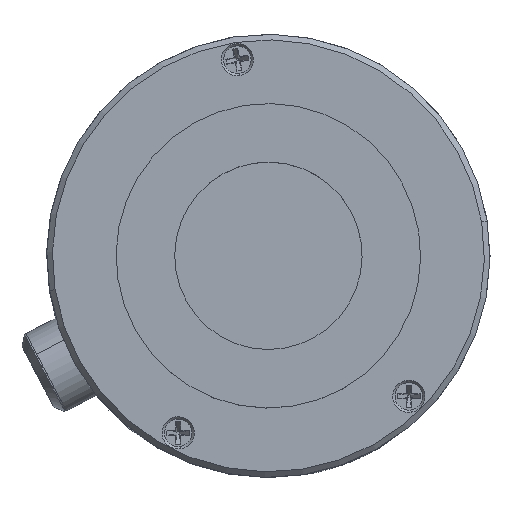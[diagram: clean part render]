
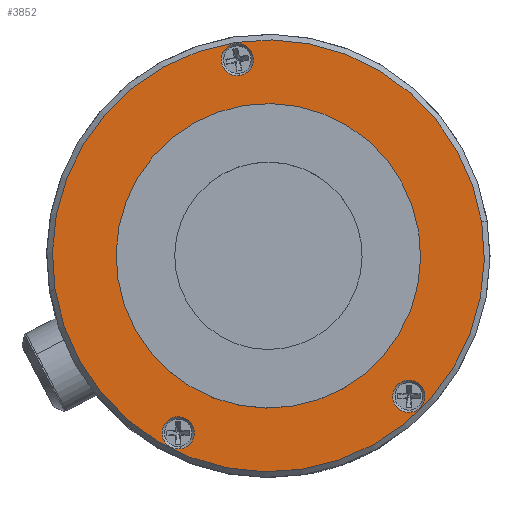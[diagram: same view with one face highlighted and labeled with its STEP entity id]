
A CAD part, top view. The second image highlights one B-rep face of the part: STEP entity #3852.
In plain terms, the highlighted planar face has unit normal (0, 0, 1) as drawn and (0, 0, -1) by its records, which use the part's own axes.
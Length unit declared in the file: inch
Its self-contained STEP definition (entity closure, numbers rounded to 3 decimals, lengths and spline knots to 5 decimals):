
#432 = EDGE_LOOP ( 'NONE', ( #46354, #32463 ) ) ;
#806 = CARTESIAN_POINT ( 'NONE',  ( -0.62305, -0.77156, 0.155 ) ) ;
#1337 = DIRECTION ( 'NONE',  ( 0., 0., -1. ) ) ;
#1945 = VERTEX_POINT ( 'NONE', #7926 ) ;
#2167 = CARTESIAN_POINT ( 'NONE',  ( -0.7845, 0., 0.155 ) ) ;
#3840 = ORIENTED_EDGE ( 'NONE', *, *, #15056, .F. ) ;
#3852 = ADVANCED_FACE ( 'Face2', ( #16910, #37222, #62943, #52576, #17238 ), #59587, .T. ) ;
#5066 = CARTESIAN_POINT ( 'NONE',  ( 0., 0.974, 0.155 ) ) ;
#7926 = CARTESIAN_POINT ( 'NONE',  ( 1.1525, 0., 0.155 ) ) ;
#7987 = CARTESIAN_POINT ( 'NONE',  ( 0., 1.146, 0.155 ) ) ;
#8437 = CARTESIAN_POINT ( 'NONE',  ( 0., 0., 0.155 ) ) ;
#8590 = VERTEX_POINT ( 'NONE', #2167 ) ;
#9162 = CIRCLE ( 'NONE', #60227, 0.086 ) ;
#9300 = VERTEX_POINT ( 'NONE', #15043 ) ;
#9803 = DIRECTION ( 'NONE',  ( -1., 0., 0. ) ) ;
#10134 = EDGE_CURVE ( 'NONE', #22692, #61598, #16368, .T. ) ;
#11386 = CARTESIAN_POINT ( 'NONE',  ( 0., 0., 0.155 ) ) ;
#11672 = EDGE_LOOP ( 'NONE', ( #24614, #3840 ) ) ;
#12423 = DIRECTION ( 'NONE',  ( 0., 1., 0. ) ) ;
#13481 = DIRECTION ( 'NONE',  ( 0., 1., 0. ) ) ;
#14053 = EDGE_CURVE ( 'NONE', #56169, #22062, #40200, .T. ) ;
#14155 = CARTESIAN_POINT ( 'NONE',  ( -0.8125, 0., 0.155 ) ) ;
#14457 = CIRCLE ( 'NONE', #26233, 1.1525 ) ;
#15043 = CARTESIAN_POINT ( 'NONE',  ( -1.1525, 0., 0.155 ) ) ;
#15056 = EDGE_CURVE ( 'NONE', #65654, #8590, #59596, .T. ) ;
#16368 = CIRCLE ( 'NONE', #49345, 0.086 ) ;
#16910 = FACE_OUTER_BOUND ( 'NONE', #432, .T. ) ;
#17156 = DIRECTION ( 'NONE',  ( 0., 0., -1. ) ) ;
#17238 = FACE_BOUND ( 'NONE', #11672, .T. ) ;
#18690 = DIRECTION ( 'NONE',  ( 0., 0., -1. ) ) ;
#18979 = ORIENTED_EDGE ( 'NONE', *, *, #65977, .F. ) ;
#19152 = AXIS2_PLACEMENT_3D ( 'NONE', #35242, #19945, #46593 ) ;
#19542 = DIRECTION ( 'NONE',  ( 0., 0., -1. ) ) ;
#19945 = DIRECTION ( 'NONE',  ( 0., 0., -1. ) ) ;
#20091 = CIRCLE ( 'NONE', #49885, 0.086 ) ;
#21116 = DIRECTION ( 'NONE',  ( -1., 0., 0. ) ) ;
#22062 = VERTEX_POINT ( 'NONE', #32411 ) ;
#22092 = DIRECTION ( 'NONE',  ( 0., 1., 0. ) ) ;
#22692 = VERTEX_POINT ( 'NONE', #65736 ) ;
#23078 = CARTESIAN_POINT ( 'NONE',  ( -0.62305, -0.85756, 0.155 ) ) ;
#23605 = CIRCLE ( 'NONE', #47074, 1.1525 ) ;
#24614 = ORIENTED_EDGE ( 'NONE', *, *, #63858, .F. ) ;
#24904 = CARTESIAN_POINT ( 'NONE',  ( 0.62305, -0.94356, 0.155 ) ) ;
#25598 = ORIENTED_EDGE ( 'NONE', *, *, #39510, .F. ) ;
#25613 = EDGE_CURVE ( 'Edge15', #9300, #1945, #23605, .T. ) ;
#26233 = AXIS2_PLACEMENT_3D ( 'NONE', #8437, #32494, #63588 ) ;
#27321 = CARTESIAN_POINT ( 'NONE',  ( -0.62305, -0.85756, 0.155 ) ) ;
#28994 = CIRCLE ( 'NONE', #51387, 0.086 ) ;
#29658 = EDGE_LOOP ( 'NONE', ( #18979, #33134 ) ) ;
#30800 = AXIS2_PLACEMENT_3D ( 'NONE', #44532, #50549, #9803 ) ;
#31246 = ORIENTED_EDGE ( 'NONE', *, *, #10134, .F. ) ;
#31338 = DIRECTION ( 'NONE',  ( 0., 0., -1. ) ) ;
#31661 = DIRECTION ( 'NONE',  ( 0., 1., 0. ) ) ;
#32411 = CARTESIAN_POINT ( 'NONE',  ( 0.62305, -0.77156, 0.155 ) ) ;
#32463 = ORIENTED_EDGE ( 'NONE', *, *, #25613, .T. ) ;
#32494 = DIRECTION ( 'NONE',  ( 0., 0., -1. ) ) ;
#32732 = AXIS2_PLACEMENT_3D ( 'NONE', #47820, #17156, #12423 ) ;
#33134 = ORIENTED_EDGE ( 'NONE', *, *, #58730, .F. ) ;
#33844 = DIRECTION ( 'NONE',  ( -1., 0., 0. ) ) ;
#35242 = CARTESIAN_POINT ( 'NONE',  ( 0., 1.06, 0.155 ) ) ;
#35959 = EDGE_LOOP ( 'NONE', ( #25598, #31246 ) ) ;
#36130 = CIRCLE ( 'NONE', #19152, 0.086 ) ;
#37222 = FACE_BOUND ( 'NONE', #35959, .T. ) ;
#38820 = CARTESIAN_POINT ( 'NONE',  ( 0., 1.06, 0.155 ) ) ;
#39510 = EDGE_CURVE ( 'NONE', #61598, #22692, #9162, .T. ) ;
#40200 = CIRCLE ( 'NONE', #32732, 0.086 ) ;
#42999 = VERTEX_POINT ( 'NONE', #7987 ) ;
#44532 = CARTESIAN_POINT ( 'NONE',  ( 0., 0., 0.155 ) ) ;
#45163 = ORIENTED_EDGE ( 'NONE', *, *, #14053, .F. ) ;
#46354 = ORIENTED_EDGE ( 'NONE', *, *, #62843, .T. ) ;
#46593 = DIRECTION ( 'NONE',  ( 0., 1., 0. ) ) ;
#47074 = AXIS2_PLACEMENT_3D ( 'NONE', #11386, #1337, #21116 ) ;
#47820 = CARTESIAN_POINT ( 'NONE',  ( 0.62305, -0.85756, 0.155 ) ) ;
#49078 = DIRECTION ( 'NONE',  ( 0., 1., 0. ) ) ;
#49345 = AXIS2_PLACEMENT_3D ( 'NONE', #27321, #31338, #31661 ) ;
#49885 = AXIS2_PLACEMENT_3D ( 'NONE', #38820, #59248, #13481 ) ;
#50549 = DIRECTION ( 'NONE',  ( 0., 0., -1. ) ) ;
#50749 = VERTEX_POINT ( 'NONE', #5066 ) ;
#51387 = AXIS2_PLACEMENT_3D ( 'NONE', #62790, #54063, #22092 ) ;
#52576 = FACE_BOUND ( 'NONE', #29658, .T. ) ;
#52642 = EDGE_CURVE ( 'NONE', #22062, #56169, #28994, .T. ) ;
#53379 = CARTESIAN_POINT ( 'NONE',  ( 0., 0., 0.155 ) ) ;
#54063 = DIRECTION ( 'NONE',  ( 0., 0., -1. ) ) ;
#54368 = CARTESIAN_POINT ( 'NONE',  ( 0.7845, 0., 0.155 ) ) ;
#56169 = VERTEX_POINT ( 'NONE', #24904 ) ;
#57871 = EDGE_LOOP ( 'NONE', ( #64750, #45163 ) ) ;
#58478 = DIRECTION ( 'NONE',  ( 0., 0., -1. ) ) ;
#58730 = EDGE_CURVE ( 'NONE', #50749, #42999, #20091, .T. ) ;
#59248 = DIRECTION ( 'NONE',  ( 0., 0., -1. ) ) ;
#59587 = PLANE ( 'NONE',  #62064 ) ;
#59596 = CIRCLE ( 'NONE', #30800, 0.7845 ) ;
#60227 = AXIS2_PLACEMENT_3D ( 'NONE', #23078, #58478, #49078 ) ;
#61572 = CIRCLE ( 'NONE', #65863, 0.7845 ) ;
#61598 = VERTEX_POINT ( 'NONE', #806 ) ;
#62064 = AXIS2_PLACEMENT_3D ( 'NONE', #14155, #19542, #33844 ) ;
#62790 = CARTESIAN_POINT ( 'NONE',  ( 0.62305, -0.85756, 0.155 ) ) ;
#62843 = EDGE_CURVE ( 'Edge15', #1945, #9300, #14457, .T. ) ;
#62943 = FACE_BOUND ( 'NONE', #57871, .T. ) ;
#63588 = DIRECTION ( 'NONE',  ( -1., 0., 0. ) ) ;
#63775 = DIRECTION ( 'NONE',  ( -1., 0., 0. ) ) ;
#63858 = EDGE_CURVE ( 'NONE', #8590, #65654, #61572, .T. ) ;
#64750 = ORIENTED_EDGE ( 'NONE', *, *, #52642, .F. ) ;
#65654 = VERTEX_POINT ( 'NONE', #54368 ) ;
#65736 = CARTESIAN_POINT ( 'NONE',  ( -0.62305, -0.94356, 0.155 ) ) ;
#65863 = AXIS2_PLACEMENT_3D ( 'NONE', #53379, #18690, #63775 ) ;
#65977 = EDGE_CURVE ( 'NONE', #42999, #50749, #36130, .T. ) ;
